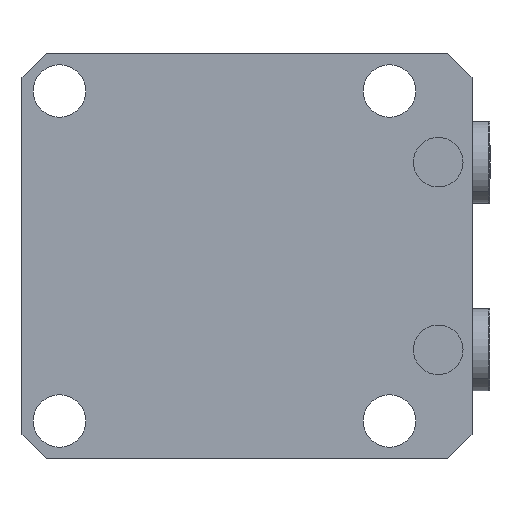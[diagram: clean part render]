
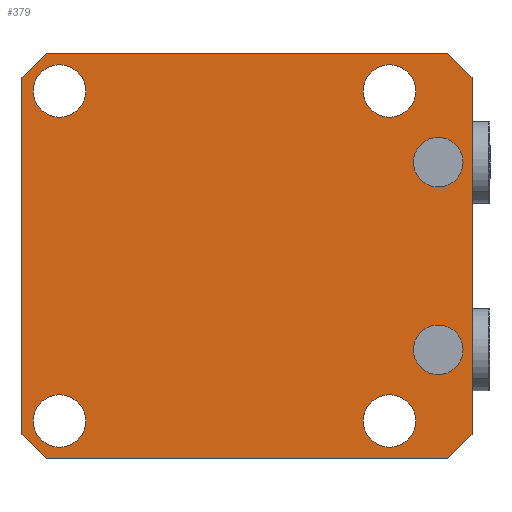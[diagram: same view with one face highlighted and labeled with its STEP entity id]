
A CAD part, front view. The second image highlights one B-rep face of the part: STEP entity #379.
In plain terms, the highlighted planar face has unit normal (0, -1, 0).
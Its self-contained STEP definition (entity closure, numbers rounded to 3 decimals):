
#153=FACE_BOUND('',#931,.T.);
#154=FACE_BOUND('',#932,.T.);
#155=FACE_BOUND('',#933,.T.);
#156=FACE_BOUND('',#934,.T.);
#157=FACE_BOUND('',#935,.T.);
#158=FACE_BOUND('',#936,.T.);
#159=FACE_BOUND('',#937,.T.);
#223=PLANE('',#4159);
#379=ADVANCED_FACE('',(#153,#154,#155,#156,#157,#158,#159),#223,.T.);
#931=EDGE_LOOP('',(#1934,#1935));
#932=EDGE_LOOP('',(#1936,#1937));
#933=EDGE_LOOP('',(#1938,#1939));
#934=EDGE_LOOP('',(#1940,#1941));
#935=EDGE_LOOP('',(#1942,#1943));
#936=EDGE_LOOP('',(#1944,#1945));
#937=EDGE_LOOP('',(#1946,#1947,#1948,#1949,#1950,#1951,#1952,#1953));
#1238=LINE('',#6101,#1527);
#1247=LINE('',#6129,#1536);
#1255=LINE('',#6155,#1544);
#1259=LINE('',#6164,#1548);
#1265=LINE('',#6189,#1554);
#1266=LINE('',#6190,#1555);
#1267=LINE('',#6191,#1556);
#1268=LINE('',#6192,#1557);
#1527=VECTOR('',#4776,1.);
#1536=VECTOR('',#4811,1.);
#1544=VECTOR('',#4821,1.);
#1548=VECTOR('',#4827,1.);
#1554=VECTOR('',#4839,1.);
#1555=VECTOR('',#4840,1.);
#1556=VECTOR('',#4841,1.);
#1557=VECTOR('',#4842,1.);
#1934=ORIENTED_EDGE('',*,*,#3403,.F.);
#1935=ORIENTED_EDGE('',*,*,#3264,.F.);
#1936=ORIENTED_EDGE('',*,*,#3404,.F.);
#1937=ORIENTED_EDGE('',*,*,#3268,.F.);
#1938=ORIENTED_EDGE('',*,*,#3379,.T.);
#1939=ORIENTED_EDGE('',*,*,#3302,.T.);
#1940=ORIENTED_EDGE('',*,*,#3375,.T.);
#1941=ORIENTED_EDGE('',*,*,#3310,.T.);
#1942=ORIENTED_EDGE('',*,*,#3373,.T.);
#1943=ORIENTED_EDGE('',*,*,#3314,.T.);
#1944=ORIENTED_EDGE('',*,*,#3377,.T.);
#1945=ORIENTED_EDGE('',*,*,#3306,.T.);
#1946=ORIENTED_EDGE('',*,*,#3395,.F.);
#1947=ORIENTED_EDGE('',*,*,#3405,.T.);
#1948=ORIENTED_EDGE('',*,*,#3381,.F.);
#1949=ORIENTED_EDGE('',*,*,#3406,.T.);
#1950=ORIENTED_EDGE('',*,*,#3364,.F.);
#1951=ORIENTED_EDGE('',*,*,#3407,.T.);
#1952=ORIENTED_EDGE('',*,*,#3391,.F.);
#1953=ORIENTED_EDGE('',*,*,#3408,.T.);
#2892=VERTEX_POINT('',#5880);
#2893=VERTEX_POINT('',#5882);
#2896=VERTEX_POINT('',#5889);
#2897=VERTEX_POINT('',#5891);
#2926=VERTEX_POINT('',#5969);
#2927=VERTEX_POINT('',#5970);
#2930=VERTEX_POINT('',#5978);
#2931=VERTEX_POINT('',#5979);
#2934=VERTEX_POINT('',#5987);
#2935=VERTEX_POINT('',#5988);
#2938=VERTEX_POINT('',#5996);
#2939=VERTEX_POINT('',#5997);
#2978=VERTEX_POINT('',#6102);
#2979=VERTEX_POINT('',#6103);
#2984=VERTEX_POINT('',#6130);
#2985=VERTEX_POINT('',#6131);
#2992=VERTEX_POINT('',#6154);
#2993=VERTEX_POINT('',#6156);
#2996=VERTEX_POINT('',#6163);
#2997=VERTEX_POINT('',#6165);
#3264=EDGE_CURVE('',#2892,#2893,#3830,.T.);
#3268=EDGE_CURVE('',#2896,#2897,#3832,.T.);
#3302=EDGE_CURVE('',#2926,#2927,#3846,.T.);
#3306=EDGE_CURVE('',#2930,#2931,#3848,.T.);
#3310=EDGE_CURVE('',#2934,#2935,#3850,.T.);
#3314=EDGE_CURVE('',#2938,#2939,#3852,.T.);
#3364=EDGE_CURVE('',#2978,#2979,#1238,.T.);
#3373=EDGE_CURVE('',#2939,#2938,#3856,.T.);
#3375=EDGE_CURVE('',#2935,#2934,#3858,.T.);
#3377=EDGE_CURVE('',#2931,#2930,#3860,.T.);
#3379=EDGE_CURVE('',#2927,#2926,#3862,.T.);
#3381=EDGE_CURVE('',#2984,#2985,#1247,.T.);
#3391=EDGE_CURVE('',#2992,#2993,#1255,.T.);
#3395=EDGE_CURVE('',#2996,#2997,#1259,.T.);
#3403=EDGE_CURVE('',#2893,#2892,#3864,.T.);
#3404=EDGE_CURVE('',#2897,#2896,#3865,.T.);
#3405=EDGE_CURVE('',#2996,#2985,#1265,.T.);
#3406=EDGE_CURVE('',#2984,#2979,#1266,.T.);
#3407=EDGE_CURVE('',#2978,#2993,#1267,.T.);
#3408=EDGE_CURVE('',#2992,#2997,#1268,.T.);
#3830=CIRCLE('',#4091,6.6);
#3832=CIRCLE('',#4094,6.6);
#3846=CIRCLE('',#4118,7.);
#3848=CIRCLE('',#4121,7.);
#3850=CIRCLE('',#4124,7.);
#3852=CIRCLE('',#4127,7.);
#3856=CIRCLE('',#4142,7.);
#3858=CIRCLE('',#4145,7.);
#3860=CIRCLE('',#4148,7.);
#3862=CIRCLE('',#4151,7.);
#3864=CIRCLE('',#4157,6.6);
#3865=CIRCLE('',#4158,6.6);
#4091=AXIS2_PLACEMENT_3D('',#5881,#4605,#4606);
#4094=AXIS2_PLACEMENT_3D('',#5890,#4613,#4614);
#4118=AXIS2_PLACEMENT_3D('',#5968,#4680,#4681);
#4121=AXIS2_PLACEMENT_3D('',#5977,#4688,#4689);
#4124=AXIS2_PLACEMENT_3D('',#5986,#4696,#4697);
#4127=AXIS2_PLACEMENT_3D('',#5995,#4704,#4705);
#4142=AXIS2_PLACEMENT_3D('',#6117,#4787,#4788);
#4145=AXIS2_PLACEMENT_3D('',#6120,#4793,#4794);
#4148=AXIS2_PLACEMENT_3D('',#6123,#4799,#4800);
#4151=AXIS2_PLACEMENT_3D('',#6126,#4805,#4806);
#4157=AXIS2_PLACEMENT_3D('',#6187,#4835,#4836);
#4158=AXIS2_PLACEMENT_3D('',#6188,#4837,#4838);
#4159=AXIS2_PLACEMENT_3D('',#6193,#4843,#4844);
#4605=DIRECTION('',(0.,-1.,0.));
#4606=DIRECTION('',(0.,0.,-1.));
#4613=DIRECTION('',(0.,-1.,0.));
#4614=DIRECTION('',(0.,0.,-1.));
#4680=DIRECTION('',(0.,1.,0.));
#4681=DIRECTION('',(0.,0.,-1.));
#4688=DIRECTION('',(0.,1.,0.));
#4689=DIRECTION('',(0.,0.,-1.));
#4696=DIRECTION('',(0.,1.,0.));
#4697=DIRECTION('',(0.,0.,-1.));
#4704=DIRECTION('',(0.,1.,0.));
#4705=DIRECTION('',(0.,0.,-1.));
#4776=DIRECTION('',(1.,0.,0.));
#4787=DIRECTION('',(0.,1.,0.));
#4788=DIRECTION('',(0.,0.,-1.));
#4793=DIRECTION('',(0.,1.,0.));
#4794=DIRECTION('',(0.,0.,-1.));
#4799=DIRECTION('',(0.,1.,0.));
#4800=DIRECTION('',(0.,0.,-1.));
#4805=DIRECTION('',(0.,1.,0.));
#4806=DIRECTION('',(0.,0.,-1.));
#4811=DIRECTION('',(0.,0.,-1.));
#4821=DIRECTION('',(0.,0.,1.));
#4827=DIRECTION('',(-1.,0.,0.));
#4835=DIRECTION('',(0.,-1.,0.));
#4836=DIRECTION('',(0.,0.,-1.));
#4837=DIRECTION('',(0.,-1.,0.));
#4838=DIRECTION('',(0.,0.,-1.));
#4839=DIRECTION('',(0.707,0.,0.707));
#4840=DIRECTION('',(-0.707,0.,0.707));
#4841=DIRECTION('',(-0.707,0.,-0.707));
#4842=DIRECTION('',(0.707,0.,-0.707));
#4843=DIRECTION('',(0.,-1.,0.));
#4844=DIRECTION('',(0.,0.,-1.));
#5880=CARTESIAN_POINT('',(-57.,-112.,-18.4));
#5881=CARTESIAN_POINT('',(-57.,-112.,-25.));
#5882=CARTESIAN_POINT('',(-57.,-112.,-31.6));
#5889=CARTESIAN_POINT('',(-57.,-112.,31.6));
#5890=CARTESIAN_POINT('',(-57.,-112.,25.));
#5891=CARTESIAN_POINT('',(-57.,-112.,18.4));
#5968=CARTESIAN_POINT('',(-44.,-112.,-44.));
#5969=CARTESIAN_POINT('',(-44.,-112.,-51.));
#5970=CARTESIAN_POINT('',(-44.,-112.,-37.));
#5977=CARTESIAN_POINT('',(44.,-112.,44.));
#5978=CARTESIAN_POINT('',(44.,-112.,37.));
#5979=CARTESIAN_POINT('',(44.,-112.,51.));
#5986=CARTESIAN_POINT('',(-44.,-112.,44.));
#5987=CARTESIAN_POINT('',(-44.,-112.,37.));
#5988=CARTESIAN_POINT('',(-44.,-112.,51.));
#5995=CARTESIAN_POINT('',(44.,-112.,-44.));
#5996=CARTESIAN_POINT('',(44.,-112.,-51.));
#5997=CARTESIAN_POINT('',(44.,-112.,-37.));
#6101=CARTESIAN_POINT('',(54.,-112.,54.));
#6102=CARTESIAN_POINT('',(-59.5,-112.,54.));
#6103=CARTESIAN_POINT('',(47.5,-112.,54.));
#6117=CARTESIAN_POINT('',(44.,-112.,-44.));
#6120=CARTESIAN_POINT('',(-44.,-112.,44.));
#6123=CARTESIAN_POINT('',(44.,-112.,44.));
#6126=CARTESIAN_POINT('',(-44.,-112.,-44.));
#6129=CARTESIAN_POINT('',(54.,-112.,-54.));
#6130=CARTESIAN_POINT('',(54.,-112.,47.5));
#6131=CARTESIAN_POINT('',(54.,-112.,-47.5));
#6154=CARTESIAN_POINT('',(-66.,-112.,-47.5));
#6155=CARTESIAN_POINT('',(-66.,-112.,54.));
#6156=CARTESIAN_POINT('',(-66.,-112.,47.5));
#6163=CARTESIAN_POINT('',(47.5,-112.,-54.));
#6164=CARTESIAN_POINT('',(54.,-112.,-54.));
#6165=CARTESIAN_POINT('',(-59.5,-112.,-54.));
#6187=CARTESIAN_POINT('',(-57.,-112.,-25.));
#6188=CARTESIAN_POINT('',(-57.,-112.,25.));
#6189=CARTESIAN_POINT('',(104.75,-112.,3.25));
#6190=CARTESIAN_POINT('',(50.75,-112.,50.75));
#6191=CARTESIAN_POINT('',(-2.75,-112.,110.75));
#6192=CARTESIAN_POINT('',(-56.75,-112.,-56.75));
#6193=CARTESIAN_POINT('',(54.,-112.,54.));
